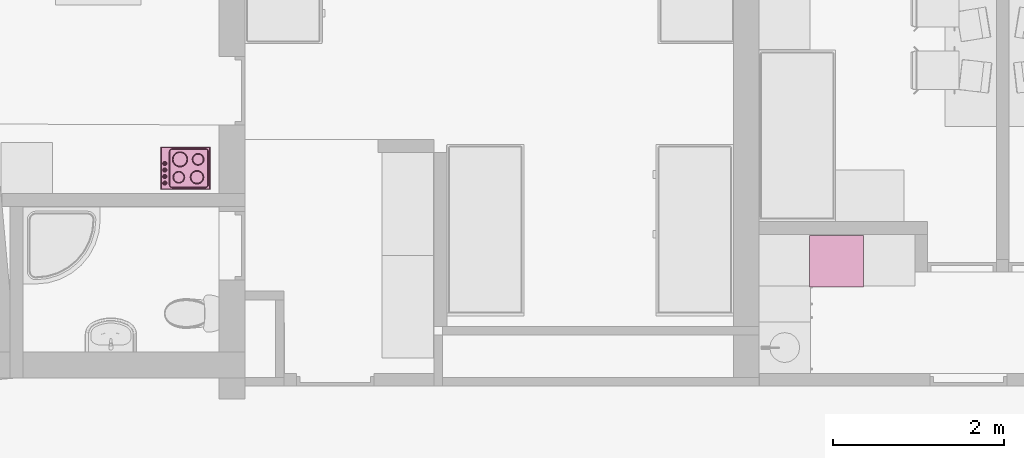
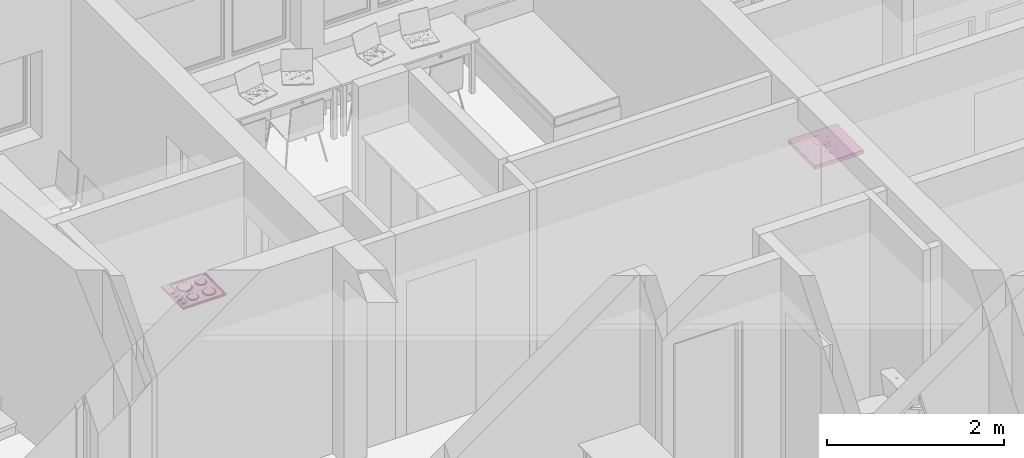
# One storey, part 151 of 165: 2 furnishings.
"""IFC2X3 building model written with IfcOpenShell, lengths in millimetres."""

from ifc_helpers import new_model, entity, si_unit, converted_unit, money_unit, direction, frame, origin_with_axes, place, context, subcontext, project, spatial, faceted_brep, source, transform, mapped, material, material_list, type_object, element, save


model = new_model("IFC2X3")

# Units and contexts
model_context = context("Model", 3, precision=1e-05, world=origin_with_axes(), true_north=direction((0.0, 1.0)))
body_context = subcontext(model_context, "Body", "Model", "MODEL_VIEW")
ifc_project = project(units=[si_unit("LENGTHUNIT", "METRE", prefix="MILLI"), si_unit("AREAUNIT", "SQUARE_METRE"), si_unit("VOLUMEUNIT", "CUBIC_METRE"), converted_unit("PLANEANGLEUNIT", "DEGREE", entity("IfcPlaneAngleMeasure", 0.0174532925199), si_unit("PLANEANGLEUNIT", "RADIAN"), dimensions=[0, 0, 0, 0, 0, 0, 0]), si_unit("SOLIDANGLEUNIT", "STERADIAN"), money_unit("USD"), converted_unit("TIMEUNIT", "Year", entity("IfcTimeMeasure", 31556926.0), si_unit("TIMEUNIT", "SECOND"), dimensions=[0, 0, 0, 0, 0, 0, 0]), si_unit("MASSUNIT", "GRAM"), si_unit("THERMODYNAMICTEMPERATUREUNIT", "DEGREE_CELSIUS"), si_unit("LUMINOUSINTENSITYUNIT", "LUMEN")], contexts=[model_context])

# Site, building, storey
site_placement = place(None, origin_with_axes())
site = spatial("IfcSite", under=ifc_project, at=site_placement, Name="Site", CompositionType="ELEMENT")
building_placement = place(site_placement, origin_with_axes())
building = spatial("IfcBuilding", under=site, at=building_placement, Name="Building", CompositionType="ELEMENT")
storey_placement = place(building_placement, frame((0.0, 0.0, 6300.0), z_axis=(0.0, 0.0, 1.0), x_axis=(1.0, 0.0, 0.0)))
storey = spatial("IfcBuildingStorey", under=building, at=storey_placement, Name="4KORRUS", CompositionType="ELEMENT", Elevation=6300.0)

# Furnishings
ifc_material = material(Name="Background")
ifc_material_list = material_list([ifc_material])
furnishing_element_type_1 = type_object("IfcFurnishingElementType", Name="Built-in Cooktops 19")
shared_shape_1 = source(origin_with_axes(), body_context, "Body", "Brep", [
    faceted_brep([(0.0, 0.0, 850.0), (0.0, 0.0, 900.0), (-629.977, 0.0, 900.0), (-629.977, 0.0, 850.0), (0.0, 600.0, 850.0), (0.0, 600.0, 900.0), (-629.977, 600.0, 900.0), (-629.977, 600.0, 850.0)], [[[0, 1, 2, 3]], [[4, 5, 1, 0]], [[1, 5, 6, 2]], [[3, 2, 6, 7]], [[0, 3, 7, 4]], [[7, 6, 5, 4]]]),
    faceted_brep([(-179.989, 55.0, 900.0), (-449.989, 55.0, 900.0), (-449.989, 545.0, 900.0), (-179.989, 545.0, 900.0), (-179.989, 55.0, 900.8), (-449.989, 55.0, 900.8), (-449.989, 545.0, 900.8), (-179.989, 545.0, 900.8), (-186.794, 61.806, 902.0), (-443.183, 61.806, 902.0), (-443.183, 538.194, 902.0), (-186.794, 538.194, 902.0)], [[[0, 1, 2, 3]], [[0, 4, 5, 1]], [[1, 5, 6, 2]], [[2, 6, 7, 3]], [[3, 7, 4, 0]], [[4, 8, 9, 5]], [[5, 9, 10, 6]], [[6, 10, 11, 7]], [[7, 11, 8, 4]], [[10, 9, 8, 11]]]),
    faceted_brep([(-209.989, 409.27, 902.0), (-209.989, 409.27, 903.0), (-224.056, 356.77, 903.0), (-224.056, 356.77, 902.0), (-224.056, 461.77, 902.0), (-224.056, 461.77, 903.0), (-262.489, 500.203, 903.0), (-314.989, 514.27, 903.0), (-367.489, 500.203, 903.0), (-405.921, 461.77, 903.0), (-419.989, 409.27, 903.0), (-405.921, 356.77, 903.0), (-367.489, 318.337, 903.0), (-314.989, 304.27, 903.0), (-262.489, 318.337, 903.0), (-214.989, 409.27, 903.0), (-228.386, 359.27, 903.0), (-264.989, 322.667, 903.0), (-314.989, 309.27, 903.0), (-364.989, 322.667, 903.0), (-401.591, 359.27, 903.0), (-414.989, 409.27, 903.0), (-401.591, 459.27, 903.0), (-364.989, 495.873, 903.0), (-314.989, 509.27, 903.0), (-264.989, 495.873, 903.0), (-228.386, 459.27, 903.0), (-262.489, 318.337, 902.0), (-314.989, 304.27, 902.0), (-367.489, 318.337, 902.0), (-405.921, 356.77, 902.0), (-419.989, 409.27, 902.0), (-405.921, 461.77, 902.0), (-367.489, 500.203, 902.0), (-314.989, 514.27, 902.0), (-262.489, 500.203, 902.0), (-214.989, 409.27, 902.0), (-228.386, 459.27, 902.0), (-264.989, 495.873, 902.0), (-314.989, 509.27, 902.0), (-364.989, 495.873, 902.0), (-401.591, 459.27, 902.0), (-414.989, 409.27, 902.0), (-401.591, 359.27, 902.0), (-364.989, 322.667, 902.0), (-314.989, 309.27, 902.0), (-264.989, 322.667, 902.0), (-228.386, 359.27, 902.0)], [[[0, 1, 2, 3]], [[4, 5, 1, 0]], [[1, 5, 6, 7, 8, 9, 10, 11, 12, 13, 14, 2], [15, 16, 17, 18, 19, 20, 21, 22, 23, 24, 25, 26]], [[3, 2, 14, 27]], [[0, 3, 27, 28, 29, 30, 31, 32, 33, 34, 35, 4], [36, 37, 38, 39, 40, 41, 42, 43, 44, 45, 46, 47]], [[35, 6, 5, 4]], [[34, 7, 6, 35]], [[33, 8, 7, 34]], [[32, 9, 8, 33]], [[31, 10, 9, 32]], [[30, 11, 10, 31]], [[29, 12, 11, 30]], [[28, 13, 12, 29]], [[27, 14, 13, 28]], [[47, 16, 15, 36]], [[46, 17, 16, 47]], [[45, 18, 17, 46]], [[44, 19, 18, 45]], [[43, 20, 19, 44]], [[42, 21, 20, 43]], [[41, 22, 21, 42]], [[40, 23, 22, 41]], [[39, 24, 23, 40]], [[38, 25, 24, 39]], [[37, 26, 25, 38]], [[36, 15, 26, 37]]]),
    faceted_brep([(-242.489, 200.53, 902.0), (-242.489, 200.53, 903.0), (-252.202, 164.28, 903.0), (-252.202, 164.28, 902.0), (-252.202, 236.78, 902.0), (-252.202, 236.78, 903.0), (-278.739, 263.317, 903.0), (-314.989, 273.03, 903.0), (-351.239, 263.317, 903.0), (-377.775, 236.78, 903.0), (-387.489, 200.53, 903.0), (-377.775, 164.28, 903.0), (-351.239, 137.743, 903.0), (-314.989, 128.03, 903.0), (-278.739, 137.743, 903.0), (-247.489, 200.53, 903.0), (-256.532, 166.78, 903.0), (-281.239, 142.073, 903.0), (-314.989, 133.03, 903.0), (-348.739, 142.073, 903.0), (-373.445, 166.78, 903.0), (-382.489, 200.53, 903.0), (-373.445, 234.28, 903.0), (-348.739, 258.987, 903.0), (-314.989, 268.03, 903.0), (-281.239, 258.987, 903.0), (-256.532, 234.28, 903.0), (-278.739, 137.743, 902.0), (-314.989, 128.03, 902.0), (-351.239, 137.743, 902.0), (-377.775, 164.28, 902.0), (-387.489, 200.53, 902.0), (-377.775, 236.78, 902.0), (-351.239, 263.317, 902.0), (-314.989, 273.03, 902.0), (-278.739, 263.317, 902.0), (-247.489, 200.53, 902.0), (-256.532, 234.28, 902.0), (-281.239, 258.987, 902.0), (-314.989, 268.03, 902.0), (-348.739, 258.987, 902.0), (-373.445, 234.28, 902.0), (-382.489, 200.53, 902.0), (-373.445, 166.78, 902.0), (-348.739, 142.073, 902.0), (-314.989, 133.03, 902.0), (-281.239, 142.073, 902.0), (-256.532, 166.78, 902.0)], [[[0, 1, 2, 3]], [[4, 5, 1, 0]], [[1, 5, 6, 7, 8, 9, 10, 11, 12, 13, 14, 2], [15, 16, 17, 18, 19, 20, 21, 22, 23, 24, 25, 26]], [[3, 2, 14, 27]], [[0, 3, 27, 28, 29, 30, 31, 32, 33, 34, 35, 4], [36, 37, 38, 39, 40, 41, 42, 43, 44, 45, 46, 47]], [[35, 6, 5, 4]], [[34, 7, 6, 35]], [[33, 8, 7, 34]], [[32, 9, 8, 33]], [[31, 10, 9, 32]], [[30, 11, 10, 31]], [[29, 12, 11, 30]], [[28, 13, 12, 29]], [[27, 14, 13, 28]], [[47, 16, 15, 36]], [[46, 17, 16, 47]], [[45, 18, 17, 46]], [[44, 19, 18, 45]], [[43, 20, 19, 44]], [[42, 21, 20, 43]], [[41, 22, 21, 42]], [[40, 23, 22, 41]], [[39, 24, 23, 40]], [[38, 25, 24, 39]], [[37, 26, 25, 38]], [[36, 15, 26, 37]]]),
])
furnishing_1_placement = place(storey_placement, frame((-40772.0319183, -9978.18762668, 0.0), z_axis=(0.0, 0.0, 1.0), x_axis=(1.0, 0.0, 0.0)))
element("IfcFurnishingElement", 1, at=furnishing_1_placement, inside=storey, type_object=furnishing_element_type_1, material=ifc_material_list, Name="FU - 007", context=body_context, shape_type="MappedRepresentation", body=[
    mapped(shared_shape_1, transform((0.0, 0.0, 0.0))),
])
furnishing_element_type_2 = type_object("IfcFurnishingElementType", Name="Cooktops Electric 19")
shared_shape_2 = source(origin_with_axes(), body_context, "Body", "Brep", [
    faceted_brep([(-230.175, 116.638, 900.0), (-224.537, 118.691, 908.0), (-229.0, 144.0, 908.0), (-235.0, 144.0, 900.0), (-216.284, 92.577, 900.0), (-211.687, 96.434, 908.0), (-192.0, 79.914, 908.0), (-167.85, 71.124, 908.0), (-142.15, 71.124, 908.0), (-118.0, 79.914, 908.0), (-98.313, 96.434, 908.0), (-85.463, 118.691, 908.0), (-81.0, 144.0, 908.0), (-85.463, 169.309, 908.0), (-98.313, 191.566, 908.0), (-118.0, 208.086, 908.0), (-142.15, 216.876, 908.0), (-167.85, 216.876, 908.0), (-192.0, 208.086, 908.0), (-211.687, 191.566, 908.0), (-224.537, 169.309, 908.0), (-230.175, 171.362, 900.0), (-216.284, 195.423, 900.0), (-195.0, 213.282, 900.0), (-168.892, 222.785, 900.0), (-141.108, 222.785, 900.0), (-115.0, 213.282, 900.0), (-93.716, 195.423, 900.0), (-79.825, 171.362, 900.0), (-75.0, 144.0, 900.0), (-79.825, 116.638, 900.0), (-93.716, 92.577, 900.0), (-115.0, 74.718, 900.0), (-141.108, 65.215, 900.0), (-168.892, 65.215, 900.0), (-195.0, 74.718, 900.0)], [[[0, 1, 2, 3]], [[4, 5, 1, 0]], [[1, 5, 6, 7, 8, 9, 10, 11, 12, 13, 14, 15, 16, 17, 18, 19, 20, 2]], [[3, 2, 20, 21]], [[0, 3, 21, 22, 23, 24, 25, 26, 27, 28, 29, 30, 31, 32, 33, 34, 35, 4]], [[35, 6, 5, 4]], [[34, 7, 6, 35]], [[33, 8, 7, 34]], [[32, 9, 8, 33]], [[31, 10, 9, 32]], [[30, 11, 10, 31]], [[29, 12, 11, 30]], [[28, 13, 12, 29]], [[27, 14, 13, 28]], [[26, 15, 14, 27]], [[25, 16, 15, 26]], [[24, 17, 16, 25]], [[23, 18, 17, 24]], [[22, 19, 18, 23]], [[21, 20, 19, 22]]]),
    faceted_brep([(-224.537, 118.691, 908.0), (-220.778, 120.059, 910.0), (-225.0, 144.0, 910.0), (-229.0, 144.0, 908.0), (-211.687, 96.434, 908.0), (-208.623, 99.005, 910.0), (-190.0, 83.378, 910.0), (-167.155, 75.063, 910.0), (-142.845, 75.063, 910.0), (-120.0, 83.378, 910.0), (-101.377, 99.005, 910.0), (-89.222, 120.059, 910.0), (-85.0, 144.0, 910.0), (-89.222, 167.941, 910.0), (-101.377, 188.995, 910.0), (-120.0, 204.622, 910.0), (-142.845, 212.937, 910.0), (-167.155, 212.937, 910.0), (-190.0, 204.622, 910.0), (-208.623, 188.995, 910.0), (-220.778, 167.941, 910.0), (-224.537, 169.309, 908.0), (-211.687, 191.566, 908.0), (-192.0, 208.086, 908.0), (-167.85, 216.876, 908.0), (-142.15, 216.876, 908.0), (-118.0, 208.086, 908.0), (-98.313, 191.566, 908.0), (-85.463, 169.309, 908.0), (-81.0, 144.0, 908.0), (-85.463, 118.691, 908.0), (-98.313, 96.434, 908.0), (-118.0, 79.914, 908.0), (-142.15, 71.124, 908.0), (-167.85, 71.124, 908.0), (-192.0, 79.914, 908.0)], [[[0, 1, 2, 3]], [[4, 5, 1, 0]], [[1, 5, 6, 7, 8, 9, 10, 11, 12, 13, 14, 15, 16, 17, 18, 19, 20, 2]], [[3, 2, 20, 21]], [[0, 3, 21, 22, 23, 24, 25, 26, 27, 28, 29, 30, 31, 32, 33, 34, 35, 4]], [[35, 6, 5, 4]], [[34, 7, 6, 35]], [[33, 8, 7, 34]], [[32, 9, 8, 33]], [[31, 10, 9, 32]], [[30, 11, 10, 31]], [[29, 12, 11, 30]], [[28, 13, 12, 29]], [[27, 14, 13, 28]], [[26, 15, 14, 27]], [[25, 16, 15, 26]], [[24, 17, 16, 25]], [[23, 18, 17, 24]], [[22, 19, 18, 23]], [[21, 20, 19, 22]]]),
    faceted_brep([(-432.778, 120.059, 900.0), (-427.14, 122.111, 908.0), (-431.0, 144.0, 908.0), (-437.0, 144.0, 900.0), (-420.623, 99.005, 900.0), (-416.027, 102.862, 908.0), (-399.0, 88.574, 908.0), (-378.113, 80.972, 908.0), (-355.887, 80.972, 908.0), (-335.0, 88.574, 908.0), (-317.973, 102.862, 908.0), (-306.86, 122.111, 908.0), (-303.0, 144.0, 908.0), (-306.86, 165.889, 908.0), (-317.973, 185.138, 908.0), (-335.0, 199.426, 908.0), (-355.887, 207.028, 908.0), (-378.113, 207.028, 908.0), (-399.0, 199.426, 908.0), (-416.027, 185.138, 908.0), (-427.14, 165.889, 908.0), (-432.778, 167.941, 900.0), (-420.623, 188.995, 900.0), (-402.0, 204.622, 900.0), (-379.155, 212.937, 900.0), (-354.845, 212.937, 900.0), (-332.0, 204.622, 900.0), (-313.377, 188.995, 900.0), (-301.222, 167.941, 900.0), (-297.0, 144.0, 900.0), (-301.222, 120.059, 900.0), (-313.377, 99.005, 900.0), (-332.0, 83.378, 900.0), (-354.845, 75.063, 900.0), (-379.155, 75.063, 900.0), (-402.0, 83.378, 900.0)], [[[0, 1, 2, 3]], [[4, 5, 1, 0]], [[1, 5, 6, 7, 8, 9, 10, 11, 12, 13, 14, 15, 16, 17, 18, 19, 20, 2]], [[3, 2, 20, 21]], [[0, 3, 21, 22, 23, 24, 25, 26, 27, 28, 29, 30, 31, 32, 33, 34, 35, 4]], [[35, 6, 5, 4]], [[34, 7, 6, 35]], [[33, 8, 7, 34]], [[32, 9, 8, 33]], [[31, 10, 9, 32]], [[30, 11, 10, 31]], [[29, 12, 11, 30]], [[28, 13, 12, 29]], [[27, 14, 13, 28]], [[26, 15, 14, 27]], [[25, 16, 15, 26]], [[24, 17, 16, 25]], [[23, 18, 17, 24]], [[22, 19, 18, 23]], [[21, 20, 19, 22]]]),
    faceted_brep([(-427.14, 122.111, 908.0), (-423.382, 123.479, 910.0), (-427.0, 144.0, 910.0), (-431.0, 144.0, 908.0), (-416.027, 102.862, 908.0), (-412.963, 105.433, 910.0), (-397.0, 92.038, 910.0), (-377.419, 84.912, 910.0), (-356.581, 84.912, 910.0), (-337.0, 92.038, 910.0), (-321.037, 105.433, 910.0), (-310.618, 123.479, 910.0), (-307.0, 144.0, 910.0), (-310.618, 164.521, 910.0), (-321.037, 182.567, 910.0), (-337.0, 195.962, 910.0), (-356.581, 203.088, 910.0), (-377.419, 203.088, 910.0), (-397.0, 195.962, 910.0), (-412.963, 182.567, 910.0), (-423.382, 164.521, 910.0), (-427.14, 165.889, 908.0), (-416.027, 185.138, 908.0), (-399.0, 199.426, 908.0), (-378.113, 207.028, 908.0), (-355.887, 207.028, 908.0), (-335.0, 199.426, 908.0), (-317.973, 185.138, 908.0), (-306.86, 165.889, 908.0), (-303.0, 144.0, 908.0), (-306.86, 122.111, 908.0), (-317.973, 102.862, 908.0), (-335.0, 88.574, 908.0), (-355.887, 80.972, 908.0), (-378.113, 80.972, 908.0), (-399.0, 88.574, 908.0)], [[[0, 1, 2, 3]], [[4, 5, 1, 0]], [[1, 5, 6, 7, 8, 9, 10, 11, 12, 13, 14, 15, 16, 17, 18, 19, 20, 2]], [[3, 2, 20, 21]], [[0, 3, 21, 22, 23, 24, 25, 26, 27, 28, 29, 30, 31, 32, 33, 34, 35, 4]], [[35, 6, 5, 4]], [[34, 7, 6, 35]], [[33, 8, 7, 34]], [[32, 9, 8, 33]], [[31, 10, 9, 32]], [[30, 11, 10, 31]], [[29, 12, 11, 30]], [[28, 13, 12, 29]], [[27, 14, 13, 28]], [[26, 15, 14, 27]], [[25, 16, 15, 26]], [[24, 17, 16, 25]], [[23, 18, 17, 24]], [[22, 19, 18, 23]], [[21, 20, 19, 22]]]),
    faceted_brep([(-437.572, 322.218, 900.0), (-431.934, 324.27, 908.0), (-437.0, 353.0, 908.0), (-443.0, 353.0, 900.0), (-421.944, 295.149, 900.0), (-417.348, 299.006, 908.0), (-395.0, 280.254, 908.0), (-367.586, 270.276, 908.0), (-338.414, 270.276, 908.0), (-311.0, 280.254, 908.0), (-288.652, 299.006, 908.0), (-274.066, 324.27, 908.0), (-269.0, 353.0, 908.0), (-274.066, 381.73, 908.0), (-288.652, 406.994, 908.0), (-311.0, 425.746, 908.0), (-338.414, 435.724, 908.0), (-367.586, 435.724, 908.0), (-395.0, 425.746, 908.0), (-417.348, 406.994, 908.0), (-431.934, 381.73, 908.0), (-437.572, 383.782, 900.0), (-421.944, 410.851, 900.0), (-398.0, 430.942, 900.0), (-368.628, 441.633, 900.0), (-337.372, 441.633, 900.0), (-308.0, 430.942, 900.0), (-284.056, 410.851, 900.0), (-268.428, 383.782, 900.0), (-263.0, 353.0, 900.0), (-268.428, 322.218, 900.0), (-284.056, 295.149, 900.0), (-308.0, 275.058, 900.0), (-337.372, 264.367, 900.0), (-368.628, 264.367, 900.0), (-398.0, 275.058, 900.0)], [[[0, 1, 2, 3]], [[4, 5, 1, 0]], [[1, 5, 6, 7, 8, 9, 10, 11, 12, 13, 14, 15, 16, 17, 18, 19, 20, 2]], [[3, 2, 20, 21]], [[0, 3, 21, 22, 23, 24, 25, 26, 27, 28, 29, 30, 31, 32, 33, 34, 35, 4]], [[35, 6, 5, 4]], [[34, 7, 6, 35]], [[33, 8, 7, 34]], [[32, 9, 8, 33]], [[31, 10, 9, 32]], [[30, 11, 10, 31]], [[29, 12, 11, 30]], [[28, 13, 12, 29]], [[27, 14, 13, 28]], [[26, 15, 14, 27]], [[25, 16, 15, 26]], [[24, 17, 16, 25]], [[23, 18, 17, 24]], [[22, 19, 18, 23]], [[21, 20, 19, 22]]]),
    faceted_brep([(-431.934, 324.27, 908.0), (-428.175, 325.638, 910.0), (-433.0, 353.0, 910.0), (-437.0, 353.0, 908.0), (-417.348, 299.006, 908.0), (-414.284, 301.577, 910.0), (-393.0, 283.718, 910.0), (-366.892, 274.215, 910.0), (-339.108, 274.215, 910.0), (-313.0, 283.718, 910.0), (-291.716, 301.577, 910.0), (-277.825, 325.638, 910.0), (-273.0, 353.0, 910.0), (-277.825, 380.362, 910.0), (-291.716, 404.423, 910.0), (-313.0, 422.282, 910.0), (-339.108, 431.785, 910.0), (-366.892, 431.785, 910.0), (-393.0, 422.282, 910.0), (-414.284, 404.423, 910.0), (-428.175, 380.362, 910.0), (-431.934, 381.73, 908.0), (-417.348, 406.994, 908.0), (-395.0, 425.746, 908.0), (-367.586, 435.724, 908.0), (-338.414, 435.724, 908.0), (-311.0, 425.746, 908.0), (-288.652, 406.994, 908.0), (-274.066, 381.73, 908.0), (-269.0, 353.0, 908.0), (-274.066, 324.27, 908.0), (-288.652, 299.006, 908.0), (-311.0, 280.254, 908.0), (-338.414, 270.276, 908.0), (-367.586, 270.276, 908.0), (-395.0, 280.254, 908.0)], [[[0, 1, 2, 3]], [[4, 5, 1, 0]], [[1, 5, 6, 7, 8, 9, 10, 11, 12, 13, 14, 15, 16, 17, 18, 19, 20, 2]], [[3, 2, 20, 21]], [[0, 3, 21, 22, 23, 24, 25, 26, 27, 28, 29, 30, 31, 32, 33, 34, 35, 4]], [[35, 6, 5, 4]], [[34, 7, 6, 35]], [[33, 8, 7, 34]], [[32, 9, 8, 33]], [[31, 10, 9, 32]], [[30, 11, 10, 31]], [[29, 12, 11, 30]], [[28, 13, 12, 29]], [[27, 14, 13, 28]], [[26, 15, 14, 27]], [[25, 16, 15, 26]], [[24, 17, 16, 25]], [[23, 18, 17, 24]], [[22, 19, 18, 23]], [[21, 20, 19, 22]]]),
    faceted_brep([(-207.778, 329.059, 900.0), (-202.14, 331.111, 908.0), (-206.0, 353.0, 908.0), (-212.0, 353.0, 900.0), (-195.623, 308.005, 900.0), (-191.027, 311.862, 908.0), (-174.0, 297.574, 908.0), (-153.113, 289.972, 908.0), (-130.887, 289.972, 908.0), (-110.0, 297.574, 908.0), (-92.973, 311.862, 908.0), (-81.86, 331.111, 908.0), (-78.0, 353.0, 908.0), (-81.86, 374.889, 908.0), (-92.973, 394.138, 908.0), (-110.0, 408.426, 908.0), (-130.887, 416.028, 908.0), (-153.113, 416.028, 908.0), (-174.0, 408.426, 908.0), (-191.027, 394.138, 908.0), (-202.14, 374.889, 908.0), (-207.778, 376.941, 900.0), (-195.623, 397.995, 900.0), (-177.0, 413.622, 900.0), (-154.155, 421.937, 900.0), (-129.845, 421.937, 900.0), (-107.0, 413.622, 900.0), (-88.377, 397.995, 900.0), (-76.222, 376.941, 900.0), (-72.0, 353.0, 900.0), (-76.222, 329.059, 900.0), (-88.377, 308.005, 900.0), (-107.0, 292.378, 900.0), (-129.845, 284.063, 900.0), (-154.155, 284.063, 900.0), (-177.0, 292.378, 900.0)], [[[0, 1, 2, 3]], [[4, 5, 1, 0]], [[1, 5, 6, 7, 8, 9, 10, 11, 12, 13, 14, 15, 16, 17, 18, 19, 20, 2]], [[3, 2, 20, 21]], [[0, 3, 21, 22, 23, 24, 25, 26, 27, 28, 29, 30, 31, 32, 33, 34, 35, 4]], [[35, 6, 5, 4]], [[34, 7, 6, 35]], [[33, 8, 7, 34]], [[32, 9, 8, 33]], [[31, 10, 9, 32]], [[30, 11, 10, 31]], [[29, 12, 11, 30]], [[28, 13, 12, 29]], [[27, 14, 13, 28]], [[26, 15, 14, 27]], [[25, 16, 15, 26]], [[24, 17, 16, 25]], [[23, 18, 17, 24]], [[22, 19, 18, 23]], [[21, 20, 19, 22]]]),
    faceted_brep([(-202.14, 331.111, 908.0), (-198.382, 332.479, 910.0), (-202.0, 353.0, 910.0), (-206.0, 353.0, 908.0), (-191.027, 311.862, 908.0), (-187.963, 314.433, 910.0), (-172.0, 301.038, 910.0), (-152.419, 293.912, 910.0), (-131.581, 293.912, 910.0), (-112.0, 301.038, 910.0), (-96.037, 314.433, 910.0), (-85.618, 332.479, 910.0), (-82.0, 353.0, 910.0), (-85.618, 373.521, 910.0), (-96.037, 391.567, 910.0), (-112.0, 404.962, 910.0), (-131.581, 412.088, 910.0), (-152.419, 412.088, 910.0), (-172.0, 404.962, 910.0), (-187.963, 391.567, 910.0), (-198.382, 373.521, 910.0), (-202.14, 374.889, 908.0), (-191.027, 394.138, 908.0), (-174.0, 408.426, 908.0), (-153.113, 416.028, 908.0), (-130.887, 416.028, 908.0), (-110.0, 408.426, 908.0), (-92.973, 394.138, 908.0), (-81.86, 374.889, 908.0), (-78.0, 353.0, 908.0), (-81.86, 331.111, 908.0), (-92.973, 311.862, 908.0), (-110.0, 297.574, 908.0), (-130.887, 289.972, 908.0), (-153.113, 289.972, 908.0), (-174.0, 297.574, 908.0)], [[[0, 1, 2, 3]], [[4, 5, 1, 0]], [[1, 5, 6, 7, 8, 9, 10, 11, 12, 13, 14, 15, 16, 17, 18, 19, 20, 2]], [[3, 2, 20, 21]], [[0, 3, 21, 22, 23, 24, 25, 26, 27, 28, 29, 30, 31, 32, 33, 34, 35, 4]], [[35, 6, 5, 4]], [[34, 7, 6, 35]], [[33, 8, 7, 34]], [[32, 9, 8, 33]], [[31, 10, 9, 32]], [[30, 11, 10, 31]], [[29, 12, 11, 30]], [[28, 13, 12, 29]], [[27, 14, 13, 28]], [[26, 15, 14, 27]], [[25, 16, 15, 26]], [[24, 17, 16, 25]], [[23, 18, 17, 24]], [[22, 19, 18, 23]], [[21, 20, 19, 22]]]),
    faceted_brep([(-506.069, 67.733, 910.0), (-507.203, 63.5, 910.0), (-516.5, 54.203, 910.0), (-529.2, 50.8, 910.0), (-541.9, 54.203, 910.0), (-551.197, 63.5, 910.0), (-552.331, 67.733, 910.0), (-511.284, 71.967, 916.35), (-512.702, 66.675, 916.35), (-519.675, 59.702, 916.35), (-529.2, 57.15, 916.35), (-538.725, 59.702, 916.35), (-545.698, 66.675, 916.35), (-547.116, 71.967, 916.35)], [[[0, 1, 2, 3, 4, 5, 6]], [[7, 8, 1, 0]], [[9, 2, 1, 8]], [[10, 3, 2, 9]], [[11, 4, 3, 10]], [[12, 5, 4, 11]], [[6, 5, 12, 13]], [[13, 7, 0, 6]], [[13, 12, 11, 10, 9, 8, 7]]]),
    faceted_brep([(-547.116, 80.433, 916.35), (-545.698, 85.725, 916.35), (-551.197, 88.9, 910.0), (-552.331, 84.667, 910.0), (-511.284, 80.433, 916.35), (-512.702, 85.725, 916.35), (-519.675, 92.698, 916.35), (-529.2, 95.25, 916.35), (-538.725, 92.698, 916.35), (-541.9, 98.197, 910.0), (-529.2, 101.6, 910.0), (-516.5, 98.197, 910.0), (-507.203, 88.9, 910.0), (-506.069, 84.667, 910.0)], [[[0, 1, 2, 3]], [[4, 5, 6, 7, 8, 1, 0]], [[8, 9, 2, 1]], [[3, 2, 9, 10, 11, 12, 13]], [[13, 4, 0, 3]], [[13, 12, 5, 4]], [[5, 12, 11, 6]], [[6, 11, 10, 7]], [[7, 10, 9, 8]]]),
    faceted_brep([(-555.658, 84.667, 910.0), (-507.398, 84.667, 910.0), (-507.398, 67.733, 910.0), (-555.658, 67.733, 910.0), (-555.658, 80.433, 916.35), (-507.398, 80.433, 916.35), (-507.398, 76.2, 920.583), (-507.398, 71.967, 916.35), (-555.658, 71.967, 916.35), (-555.658, 76.2, 920.583)], [[[0, 1, 2, 3]], [[4, 5, 1, 0]], [[1, 5, 6, 7, 2]], [[3, 2, 7, 8]], [[0, 3, 8, 9, 4]], [[9, 6, 5, 4]], [[8, 7, 6, 9]]]),
    faceted_brep([(-506.069, 143.933, 910.0), (-507.203, 139.7, 910.0), (-516.5, 130.403, 910.0), (-529.2, 127.0, 910.0), (-541.9, 130.403, 910.0), (-551.197, 139.7, 910.0), (-552.331, 143.933, 910.0), (-511.284, 148.167, 916.35), (-512.702, 142.875, 916.35), (-519.675, 135.902, 916.35), (-529.2, 133.35, 916.35), (-538.725, 135.902, 916.35), (-545.698, 142.875, 916.35), (-547.116, 148.167, 916.35)], [[[0, 1, 2, 3, 4, 5, 6]], [[7, 8, 1, 0]], [[9, 2, 1, 8]], [[10, 3, 2, 9]], [[11, 4, 3, 10]], [[12, 5, 4, 11]], [[6, 5, 12, 13]], [[13, 7, 0, 6]], [[13, 12, 11, 10, 9, 8, 7]]]),
    faceted_brep([(-547.116, 156.633, 916.35), (-545.698, 161.925, 916.35), (-551.197, 165.1, 910.0), (-552.331, 160.867, 910.0), (-511.284, 156.633, 916.35), (-512.702, 161.925, 916.35), (-519.675, 168.898, 916.35), (-529.2, 171.45, 916.35), (-538.725, 168.898, 916.35), (-541.9, 174.397, 910.0), (-529.2, 177.8, 910.0), (-516.5, 174.397, 910.0), (-507.203, 165.1, 910.0), (-506.069, 160.867, 910.0)], [[[0, 1, 2, 3]], [[4, 5, 6, 7, 8, 1, 0]], [[8, 9, 2, 1]], [[3, 2, 9, 10, 11, 12, 13]], [[13, 4, 0, 3]], [[13, 12, 5, 4]], [[5, 12, 11, 6]], [[6, 11, 10, 7]], [[7, 10, 9, 8]]]),
    faceted_brep([(-555.658, 160.867, 910.0), (-507.398, 160.867, 910.0), (-507.398, 143.933, 910.0), (-555.658, 143.933, 910.0), (-555.658, 156.633, 916.35), (-507.398, 156.633, 916.35), (-507.398, 152.4, 920.583), (-507.398, 148.167, 916.35), (-555.658, 148.167, 916.35), (-555.658, 152.4, 920.583)], [[[0, 1, 2, 3]], [[4, 5, 1, 0]], [[1, 5, 6, 7, 2]], [[3, 2, 7, 8]], [[0, 3, 8, 9, 4]], [[9, 6, 5, 4]], [[8, 7, 6, 9]]]),
    faceted_brep([(-506.069, 220.133, 910.0), (-507.203, 215.9, 910.0), (-516.5, 206.603, 910.0), (-529.2, 203.2, 910.0), (-541.9, 206.603, 910.0), (-551.197, 215.9, 910.0), (-552.331, 220.133, 910.0), (-511.284, 224.367, 916.35), (-512.702, 219.075, 916.35), (-519.675, 212.102, 916.35), (-529.2, 209.55, 916.35), (-538.725, 212.102, 916.35), (-545.698, 219.075, 916.35), (-547.116, 224.367, 916.35)], [[[0, 1, 2, 3, 4, 5, 6]], [[7, 8, 1, 0]], [[9, 2, 1, 8]], [[10, 3, 2, 9]], [[11, 4, 3, 10]], [[12, 5, 4, 11]], [[6, 5, 12, 13]], [[13, 7, 0, 6]], [[13, 12, 11, 10, 9, 8, 7]]]),
    faceted_brep([(-547.116, 232.833, 916.35), (-545.698, 238.125, 916.35), (-551.197, 241.3, 910.0), (-552.331, 237.067, 910.0), (-511.284, 232.833, 916.35), (-512.702, 238.125, 916.35), (-519.675, 245.098, 916.35), (-529.2, 247.65, 916.35), (-538.725, 245.098, 916.35), (-541.9, 250.597, 910.0), (-529.2, 254.0, 910.0), (-516.5, 250.597, 910.0), (-507.203, 241.3, 910.0), (-506.069, 237.067, 910.0)], [[[0, 1, 2, 3]], [[4, 5, 6, 7, 8, 1, 0]], [[8, 9, 2, 1]], [[3, 2, 9, 10, 11, 12, 13]], [[13, 4, 0, 3]], [[13, 12, 5, 4]], [[5, 12, 11, 6]], [[6, 11, 10, 7]], [[7, 10, 9, 8]]]),
    faceted_brep([(-555.658, 237.067, 910.0), (-507.398, 237.067, 910.0), (-507.398, 220.133, 910.0), (-555.658, 220.133, 910.0), (-555.658, 232.833, 916.35), (-507.398, 232.833, 916.35), (-507.398, 228.6, 920.583), (-507.398, 224.367, 916.35), (-555.658, 224.367, 916.35), (-555.658, 228.6, 920.583)], [[[0, 1, 2, 3]], [[4, 5, 1, 0]], [[1, 5, 6, 7, 2]], [[3, 2, 7, 8]], [[0, 3, 8, 9, 4]], [[9, 6, 5, 4]], [[8, 7, 6, 9]]]),
    faceted_brep([(-506.069, 296.333, 910.0), (-507.203, 292.1, 910.0), (-516.5, 282.803, 910.0), (-529.2, 279.4, 910.0), (-541.9, 282.803, 910.0), (-551.197, 292.1, 910.0), (-552.331, 296.333, 910.0), (-511.284, 300.567, 916.35), (-512.702, 295.275, 916.35), (-519.675, 288.302, 916.35), (-529.2, 285.75, 916.35), (-538.725, 288.302, 916.35), (-545.698, 295.275, 916.35), (-547.116, 300.567, 916.35)], [[[0, 1, 2, 3, 4, 5, 6]], [[7, 8, 1, 0]], [[9, 2, 1, 8]], [[10, 3, 2, 9]], [[11, 4, 3, 10]], [[12, 5, 4, 11]], [[6, 5, 12, 13]], [[13, 7, 0, 6]], [[13, 12, 11, 10, 9, 8, 7]]]),
    faceted_brep([(-547.116, 309.033, 916.35), (-545.698, 314.325, 916.35), (-551.197, 317.5, 910.0), (-552.331, 313.267, 910.0), (-511.284, 309.033, 916.35), (-512.702, 314.325, 916.35), (-519.675, 321.298, 916.35), (-529.2, 323.85, 916.35), (-538.725, 321.298, 916.35), (-541.9, 326.797, 910.0), (-529.2, 330.2, 910.0), (-516.5, 326.797, 910.0), (-507.203, 317.5, 910.0), (-506.069, 313.267, 910.0)], [[[0, 1, 2, 3]], [[4, 5, 6, 7, 8, 1, 0]], [[8, 9, 2, 1]], [[3, 2, 9, 10, 11, 12, 13]], [[13, 4, 0, 3]], [[13, 12, 5, 4]], [[5, 12, 11, 6]], [[6, 11, 10, 7]], [[7, 10, 9, 8]]]),
    faceted_brep([(-555.658, 313.267, 910.0), (-507.398, 313.267, 910.0), (-507.398, 296.333, 910.0), (-555.658, 296.333, 910.0), (-555.658, 309.033, 916.35), (-507.398, 309.033, 916.35), (-507.398, 304.8, 920.583), (-507.398, 300.567, 916.35), (-555.658, 300.567, 916.35), (-555.658, 304.8, 920.583)], [[[0, 1, 2, 3]], [[4, 5, 1, 0]], [[1, 5, 6, 7, 2]], [[3, 2, 7, 8]], [[0, 3, 8, 9, 4]], [[9, 6, 5, 4]], [[8, 7, 6, 9]]]),
    faceted_brep([(-580.0, 0.0, 900.0), (-580.0, 500.0, 900.0), (0.0, 500.0, 900.0), (0.0, 0.0, 900.0), (-33.349, 457.5, 900.0), (-42.5, 466.651, 900.0), (-55.0, 470.0, 900.0), (-445.0, 470.0, 900.0), (-457.5, 466.651, 900.0), (-466.651, 457.5, 900.0), (-470.0, 445.0, 900.0), (-470.0, 55.0, 900.0), (-466.651, 42.5, 900.0), (-457.5, 33.349, 900.0), (-445.0, 30.0, 900.0), (-55.0, 30.0, 900.0), (-42.5, 33.349, 900.0), (-33.349, 42.5, 900.0), (-30.0, 55.0, 900.0), (-30.0, 445.0, 900.0), (-580.0, 0.0, 901.0), (-580.0, 500.0, 901.0), (0.0, 500.0, 901.0), (0.0, 0.0, 901.0), (-33.349, 457.5, 901.0), (-42.5, 466.651, 901.0), (-55.0, 470.0, 901.0), (-445.0, 470.0, 901.0), (-457.5, 466.651, 901.0), (-466.651, 457.5, 901.0), (-470.0, 445.0, 901.0), (-470.0, 55.0, 901.0), (-466.651, 42.5, 901.0), (-457.5, 33.349, 901.0), (-445.0, 30.0, 901.0), (-55.0, 30.0, 901.0), (-42.5, 33.349, 901.0), (-33.349, 42.5, 901.0), (-30.0, 55.0, 901.0), (-30.0, 445.0, 901.0), (-571.0, 9.0, 910.0), (-571.0, 491.0, 910.0), (-9.0, 491.0, 910.0), (-9.0, 9.0, 910.0), (-25.28, 462.159, 910.0), (-37.841, 474.72, 910.0), (-53.815, 479.0, 910.0), (-446.185, 479.0, 910.0), (-462.159, 474.72, 910.0), (-474.72, 462.159, 910.0), (-479.0, 446.185, 910.0), (-479.0, 53.815, 910.0), (-474.72, 37.841, 910.0), (-462.159, 25.28, 910.0), (-446.185, 21.0, 910.0), (-53.815, 21.0, 910.0), (-37.841, 25.28, 910.0), (-25.28, 37.841, 910.0), (-21.0, 53.815, 910.0), (-21.0, 446.185, 910.0)], [[[0, 1, 2, 3], [4, 5, 6, 7, 8, 9, 10, 11, 12, 13, 14, 15, 16, 17, 18, 19]], [[0, 20, 21, 1]], [[1, 21, 22, 2]], [[2, 22, 23, 3]], [[3, 23, 20, 0]], [[4, 24, 25, 5]], [[5, 25, 26, 6]], [[6, 26, 27, 7]], [[7, 27, 28, 8]], [[8, 28, 29, 9]], [[9, 29, 30, 10]], [[10, 30, 31, 11]], [[11, 31, 32, 12]], [[12, 32, 33, 13]], [[13, 33, 34, 14]], [[14, 34, 35, 15]], [[15, 35, 36, 16]], [[16, 36, 37, 17]], [[17, 37, 38, 18]], [[18, 38, 39, 19]], [[19, 39, 24, 4]], [[20, 40, 41, 21]], [[21, 41, 42, 22]], [[22, 42, 43, 23]], [[23, 43, 40, 20]], [[24, 44, 45, 25]], [[25, 45, 46, 26]], [[26, 46, 47, 27]], [[27, 47, 48, 28]], [[28, 48, 49, 29]], [[29, 49, 50, 30]], [[30, 50, 51, 31]], [[31, 51, 52, 32]], [[32, 52, 53, 33]], [[33, 53, 54, 34]], [[34, 54, 55, 35]], [[35, 55, 56, 36]], [[36, 56, 57, 37]], [[37, 57, 58, 38]], [[38, 58, 59, 39]], [[39, 59, 44, 24]], [[42, 41, 40, 43], [58, 57, 56, 55, 54, 53, 52, 51, 50, 49, 48, 47, 46, 45, 44, 59]]]),
    faceted_brep([(-565.0, 485.0, 870.0), (-565.0, 485.0, 900.0), (-15.0, 485.0, 900.0), (-15.0, 485.0, 870.0), (-565.0, 15.0, 870.0), (-565.0, 15.0, 900.0), (-15.0, 15.0, 900.0), (-15.0, 15.0, 870.0)], [[[0, 1, 2, 3]], [[4, 5, 1, 0]], [[1, 5, 6, 2]], [[3, 2, 6, 7]], [[0, 3, 7, 4]], [[7, 6, 5, 4]]]),
])
furnishing_2_placement = place(storey_placement, frame((-48393.5319623, -8843.5660247, 0.0), z_axis=(0.0, 0.0, 1.0), x_axis=(1.0, 0.0, 0.0)))
element("IfcFurnishingElement", 2, at=furnishing_2_placement, inside=storey, type_object=furnishing_element_type_2, material=ifc_material_list, Name="FU - 007", context=body_context, shape_type="MappedRepresentation", body=[
    mapped(shared_shape_2, transform((0.0, 0.0, 0.0))),
])

save(model, "model.ifc")
